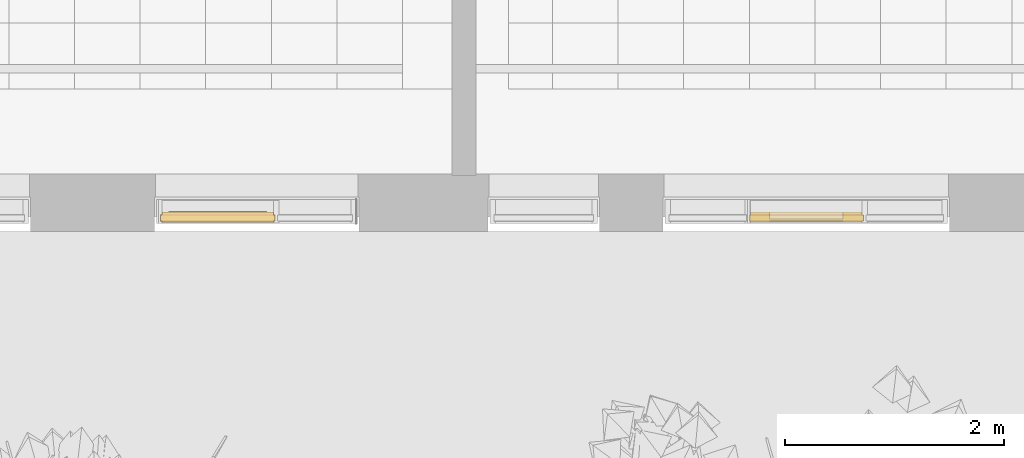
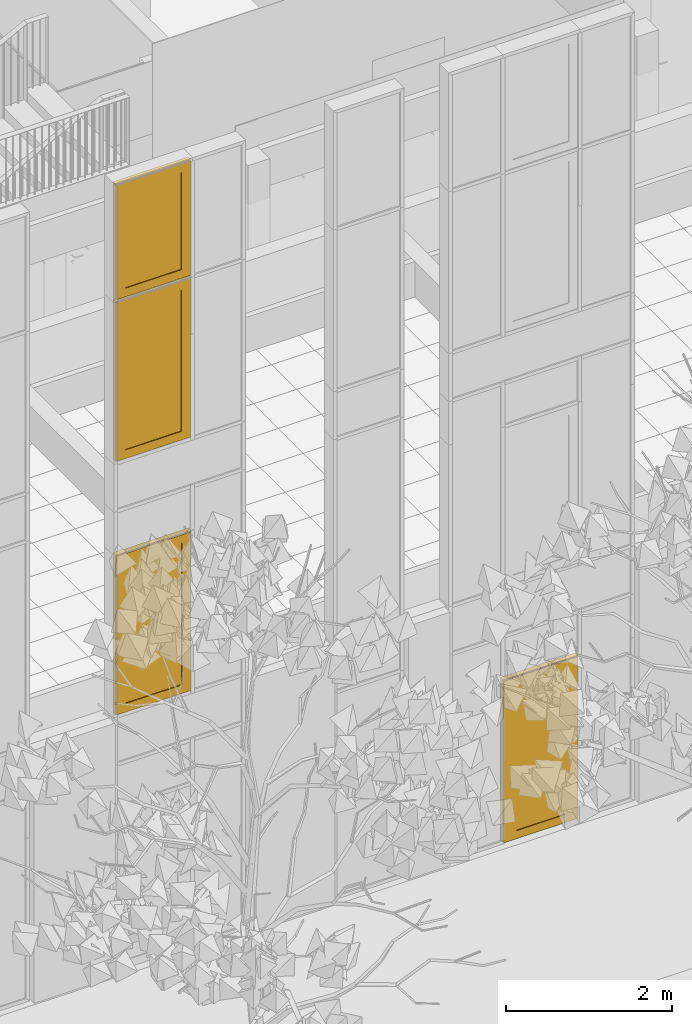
# One storey, part 147 of 246: 3 windows, 1 door, 2 elements without a shape of their own.
"""IFC2X3 building model written with IfcOpenShell, lengths in millimetres."""

from ifc_helpers import new_model, entity, si_unit, converted_unit, derived_unit, money_unit, direction, frame, origin_with_axes, place, context, subcontext, project, spatial, open_shell, faceted_brep, surface_model, source, transform, mapped, material, material_list, type_object, element, aggregate, save


model = new_model("IFC2X3")

# Units and contexts
model_context = context("Model", 3, precision=0.01, world=origin_with_axes(), true_north=direction((0.0, 1.0)))
body_context = subcontext(model_context, "Body", "Model", "MODEL_VIEW")
ifc_project = project(units=[si_unit("LENGTHUNIT", "METRE", prefix="MILLI"), si_unit("AREAUNIT", "SQUARE_METRE"), si_unit("VOLUMEUNIT", "CUBIC_METRE"), converted_unit("PLANEANGLEUNIT", "DEGREE", entity("IfcPlaneAngleMeasure", 0.0174532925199), si_unit("PLANEANGLEUNIT", "RADIAN"), dimensions=[0, 0, 0, 0, 0, 0, 0]), si_unit("SOLIDANGLEUNIT", "STERADIAN"), money_unit("EUR"), converted_unit("TIMEUNIT", "Year", entity("IfcTimeMeasure", 31556926.0), si_unit("TIMEUNIT", "SECOND"), dimensions=[0, 0, 1, 0, 0, 0, 0]), si_unit("MASSUNIT", "GRAM", prefix="KILO"), si_unit("THERMODYNAMICTEMPERATUREUNIT", "DEGREE_CELSIUS"), si_unit("LUMINOUSINTENSITYUNIT", "LUMEN"), si_unit("ENERGYUNIT", "JOULE", prefix="MEGA"), derived_unit("THERMALCONDUCTANCEUNIT", [(si_unit("POWERUNIT", "WATT"), 1), (si_unit("LENGTHUNIT", "METRE"), -1), (si_unit("THERMODYNAMICTEMPERATUREUNIT", "KELVIN"), -1)]), derived_unit("SPECIFICHEATCAPACITYUNIT", [(si_unit("ENERGYUNIT", "JOULE"), 1), (si_unit("MASSUNIT", "GRAM", prefix="KILO"), -1), (si_unit("THERMODYNAMICTEMPERATUREUNIT", "KELVIN"), -1)]), derived_unit("MASSDENSITYUNIT", [(si_unit("MASSUNIT", "GRAM", prefix="KILO"), 1), (si_unit("VOLUMEUNIT", "CUBIC_METRE"), -1)])], contexts=[model_context])

# Site, building, storey
site_placement = place(None, origin_with_axes())
site = spatial("IfcSite", under=ifc_project, at=site_placement, Name="L.Koidula tn 11b", CompositionType="ELEMENT")
building_placement = place(site_placement, origin_with_axes())
building = spatial("IfcBuilding", under=site, at=building_placement, Name="Rakvere Riigigümnaasium", CompositionType="ELEMENT")
storey_placement = place(building_placement, origin_with_axes())
storey = spatial("IfcBuildingStorey", under=building, at=storey_placement, Name="1.korrus 0,00", CompositionType="ELEMENT", Elevation=0.0)

# Curtain wall, windows
curtain_wall_type = type_object("IfcCurtainWallType", Name="Curtain Wall Type", PredefinedType="NOTDEFINED")
curtain_wall_1_placement = place(storey_placement, frame((59064.0000846, 5111.45334637, -8.09717250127e-06), z_axis=(0.0, 0.0, 1.0), x_axis=(1.0, 0.0, 0.0)))
curtain_wall_1 = element("IfcCurtainWall", 1, at=curtain_wall_1_placement, inside=storey, type_object=curtain_wall_type, Name="KLF-05-2A")
ifc_material_1 = material(Name="Alumiiniumprofiil (RAL 7021)")
ifc_material_2 = material(Name="Klaaspakett 3x ribikardinatega")
ifc_material_list = material_list([ifc_material_1, ifc_material_2])
window_style_1 = type_object("IfcWindowStyle", Name="1046 x 2351 x 65", ConstructionType="NOTDEFINED", OperationType="NOTDEFINED", ParameterTakesPrecedence=False, Sizeable=False)
shared_shape_1 = source(origin_with_axes(), body_context, "Body", "SurfaceModel", [
    surface_model("IfcShellBasedSurfaceModel", [(50.0000055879, 24.9999850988, 43.5), (109.000005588, 83.9999850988, 43.5), (1010.9999851, 83.9999850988, 43.5), (1069.9999851, 24.9999850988, 43.5)], [open_shell([[[0, 1, 2, 3]]])]),
    surface_model("IfcShellBasedSurfaceModel", [(1069.9999851, 24.9999850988, 43.5), (1010.9999851, 83.9999850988, 43.5), (1010.9999851, 2291.0000149, 43.5), (1069.9999851, 2350.0000149, 43.5)], [open_shell([[[0, 1, 2, 3]]])]),
    surface_model("IfcShellBasedSurfaceModel", [(50.0000055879, 2350.0000149, 43.5), (1069.9999851, 2350.0000149, 43.5), (1010.9999851, 2291.0000149, 43.5), (109.000005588, 2291.0000149, 43.5)], [open_shell([[[0, 1, 2, 3]]])]),
    surface_model("IfcShellBasedSurfaceModel", [(50.0000055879, 24.9999850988, 43.5), (50.0000055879, 2350.0000149, 43.5), (109.000005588, 2291.0000149, 43.5), (109.000005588, 83.9999850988, 43.5)], [open_shell([[[0, 1, 2, 3]]])]),
    faceted_brep([(50.0000055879, 24.9999850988, -45.5), (1069.9999851, 24.9999850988, -45.5), (1069.9999851, 24.9999850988, 43.5), (50.0000055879, 24.9999850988, 43.5), (109.000005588, 83.9999850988, -45.5), (1010.9999851, 83.9999850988, -45.5), (1010.9999851, 83.9999850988, 43.5), (109.000005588, 83.9999850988, 43.5)], [[[0, 1, 2, 3]], [[0, 4, 5, 1]], [[1, 5, 6, 2]], [[3, 2, 6, 7]], [[4, 0, 3, 7]], [[5, 4, 7, 6]]]),
    faceted_brep([(1069.9999851, 24.9999850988, -45.5), (1069.9999851, 2350.0000149, -45.5), (1069.9999851, 2350.0000149, 43.5), (1069.9999851, 24.9999850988, 43.5), (1010.9999851, 83.9999850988, -45.5), (1010.9999851, 2291.0000149, -45.5), (1010.9999851, 2291.0000149, 43.5), (1010.9999851, 83.9999850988, 43.5)], [[[0, 1, 2, 3]], [[0, 4, 5, 1]], [[1, 5, 6, 2]], [[3, 2, 6, 7]], [[4, 0, 3, 7]], [[5, 4, 7, 6]]]),
    faceted_brep([(50.0000055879, 2350.0000149, -45.5), (109.000005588, 2291.0000149, -45.5), (109.000005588, 2291.0000149, 43.5), (50.0000055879, 2350.0000149, 43.5), (1069.9999851, 2350.0000149, -45.5), (1010.9999851, 2291.0000149, -45.5), (1010.9999851, 2291.0000149, 43.5), (1069.9999851, 2350.0000149, 43.5)], [[[0, 1, 2, 3]], [[0, 4, 5, 1]], [[1, 5, 6, 2]], [[3, 2, 6, 7]], [[4, 0, 3, 7]], [[5, 4, 7, 6]]]),
    faceted_brep([(50.0000055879, 24.9999850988, -45.5), (109.000005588, 83.9999850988, -45.5), (109.000005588, 83.9999850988, 43.5), (50.0000055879, 24.9999850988, 43.5), (50.0000055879, 2350.0000149, -45.5), (109.000005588, 2291.0000149, -45.5), (109.000005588, 2291.0000149, 43.5), (50.0000055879, 2350.0000149, 43.5)], [[[0, 1, 2, 3]], [[0, 4, 5, 1]], [[1, 5, 6, 2]], [[3, 2, 6, 7]], [[4, 0, 3, 7]], [[5, 4, 7, 6]]]),
    faceted_brep([(36.9999836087, 11.9999985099, -32.5), (1083.00000708, 11.9999985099, -32.5), (1083.00000708, 11.9999985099, 32.5), (36.9999836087, 11.9999985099, 32.5), (50.0000055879, 24.9999850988, -32.5), (1069.9999851, 24.9999850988, -32.5), (1069.9999851, 24.9999850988, 32.5), (50.0000055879, 24.9999850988, 32.5)], [[[0, 1, 2, 3]], [[0, 4, 5, 1]], [[1, 5, 6, 2]], [[3, 2, 6, 7]], [[4, 0, 3, 7]], [[5, 4, 7, 6]]]),
    faceted_brep([(1083.00000708, 11.9999985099, -32.5), (1083.00000708, 2363.00000149, -32.5), (1083.00000708, 2363.00000149, 32.5), (1083.00000708, 11.9999985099, 32.5), (1069.9999851, 24.9999850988, -32.5), (1069.9999851, 2350.0000149, -32.5), (1069.9999851, 2350.0000149, 32.5), (1069.9999851, 24.9999850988, 32.5)], [[[0, 1, 2, 3]], [[0, 4, 5, 1]], [[1, 5, 6, 2]], [[3, 2, 6, 7]], [[4, 0, 3, 7]], [[5, 4, 7, 6]]]),
    faceted_brep([(1083.00000708, 2363.00000149, -32.5), (36.9999836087, 2363.00000149, -32.5), (36.9999836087, 2363.00000149, 32.5), (1083.00000708, 2363.00000149, 32.5), (1069.9999851, 2350.0000149, -32.5), (50.0000055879, 2350.0000149, -32.5), (50.0000055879, 2350.0000149, 32.5), (1069.9999851, 2350.0000149, 32.5)], [[[0, 1, 2, 3]], [[0, 4, 5, 1]], [[1, 5, 6, 2]], [[3, 2, 6, 7]], [[4, 0, 3, 7]], [[5, 4, 7, 6]]]),
    faceted_brep([(36.9999836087, 2363.00000149, -32.5), (36.9999836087, 11.9999985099, -32.5), (36.9999836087, 11.9999985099, 32.5), (36.9999836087, 2363.00000149, 32.5), (50.0000055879, 2350.0000149, -32.5), (50.0000055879, 24.9999850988, -32.5), (50.0000055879, 24.9999850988, 32.5), (50.0000055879, 2350.0000149, 32.5)], [[[0, 1, 2, 3]], [[0, 4, 5, 1]], [[1, 5, 6, 2]], [[3, 2, 6, 7]], [[4, 0, 3, 7]], [[5, 4, 7, 6]]]),
    faceted_brep([(172.000005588, 146.999985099, 43.5), (172.000005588, 146.999985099, -56.5), (172.000005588, 2228.0000149, -56.5), (172.000005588, 2228.0000149, 43.5), (109.000005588, 83.9999850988, 43.5), (109.000005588, 83.9999850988, -56.5), (109.000005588, 2291.0000149, -56.5), (109.000005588, 2291.0000149, 43.5)], [[[0, 1, 2, 3]], [[4, 5, 1, 0]], [[1, 5, 6, 2]], [[3, 2, 6, 7]], [[0, 3, 7, 4]], [[7, 6, 5, 4]]]),
    faceted_brep([(1010.9999851, 83.9999850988, 43.5), (1010.9999851, 83.9999850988, -56.5), (1010.9999851, 2291.0000149, -56.5), (1010.9999851, 2291.0000149, 43.5), (947.999985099, 146.999985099, 43.5), (947.999985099, 146.999985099, -56.5), (947.999985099, 2228.0000149, -56.5), (947.999985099, 2228.0000149, 43.5)], [[[0, 1, 2, 3]], [[4, 5, 1, 0]], [[1, 5, 6, 2]], [[3, 2, 6, 7]], [[0, 3, 7, 4]], [[7, 6, 5, 4]]]),
    faceted_brep([(1010.9999851, 83.9999850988, 43.5), (1010.9999851, 83.9999850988, -56.5), (947.999985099, 146.999985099, -56.5), (947.999985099, 146.999985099, 43.5), (109.000005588, 83.9999850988, 43.5), (109.000005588, 83.9999850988, -56.5), (172.000005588, 146.999985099, -56.5), (172.000005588, 146.999985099, 43.5)], [[[0, 1, 2, 3]], [[4, 5, 1, 0]], [[1, 5, 6, 2]], [[3, 2, 6, 7]], [[0, 3, 7, 4]], [[7, 6, 5, 4]]]),
    faceted_brep([(109.000005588, 2291.0000149, 43.5), (109.000005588, 2291.0000149, -56.5), (172.000005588, 2228.0000149, -56.5), (172.000005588, 2228.0000149, 43.5), (1010.9999851, 2291.0000149, 43.5), (1010.9999851, 2291.0000149, -56.5), (947.999985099, 2228.0000149, -56.5), (947.999985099, 2228.0000149, 43.5)], [[[0, 1, 2, 3]], [[4, 5, 1, 0]], [[1, 5, 6, 2]], [[3, 2, 6, 7]], [[0, 3, 7, 4]], [[7, 6, 5, 4]]]),
    faceted_brep([(172.000005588, 146.999985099, 32.5), (172.000005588, 146.999985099, -32.5), (947.999985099, 146.999985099, -32.5), (947.999985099, 146.999985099, 32.5), (172.000005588, 2228.0000149, 32.5), (172.000005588, 2228.0000149, -32.5), (947.999985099, 2228.0000149, -32.5), (947.999985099, 2228.0000149, 32.5)], [[[0, 1, 2, 3]], [[4, 5, 1, 0]], [[1, 5, 6, 2]], [[3, 2, 6, 7]], [[0, 3, 7, 4]], [[7, 6, 5, 4]]]),
])
window_1_placement = place(curtain_wall_1_placement, frame((-582.333458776, 0.0, 4932.5), z_axis=(0.0, 0.0, 1.0), x_axis=(-1.0, 0.0, 0.0)))
window_1 = element("IfcWindow", 2, at=window_1_placement, type_object=window_style_1, material=ifc_material_list, Name="KLF-05-A-1", ObjectType="WINDOW", context=body_context, shape_type="MappedRepresentation", body=[
    mapped(shared_shape_1, transform((371.666628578, 0.0, -1187.5), x_axis=(-1.0, 0.0, 0.0), y_axis=(0.0, 0.0, 1.0), z_axis=(0.0, 1.0, 0.0))),
])
window_style_2 = type_object("IfcWindowStyle", Name="1046 x 2351 x 54", ConstructionType="NOTDEFINED", OperationType="NOTDEFINED", ParameterTakesPrecedence=False, Sizeable=False)
shared_shape_2 = source(origin_with_axes(), body_context, "Body", "SurfaceModel", [
    surface_model("IfcShellBasedSurfaceModel", [(50.0000055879, 24.9999850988, 38.0), (109.000005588, 83.9999850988, 38.0), (1010.9999851, 83.9999850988, 38.0), (1069.9999851, 24.9999850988, 38.0)], [open_shell([[[0, 1, 2, 3]]])]),
    surface_model("IfcShellBasedSurfaceModel", [(1069.9999851, 24.9999850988, 38.0), (1010.9999851, 83.9999850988, 38.0), (1010.9999851, 2291.0000149, 38.0), (1069.9999851, 2350.0000149, 38.0)], [open_shell([[[0, 1, 2, 3]]])]),
    surface_model("IfcShellBasedSurfaceModel", [(50.0000055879, 2350.0000149, 38.0), (1069.9999851, 2350.0000149, 38.0), (1010.9999851, 2291.0000149, 38.0), (109.000005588, 2291.0000149, 38.0)], [open_shell([[[0, 1, 2, 3]]])]),
    surface_model("IfcShellBasedSurfaceModel", [(50.0000055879, 24.9999850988, 38.0), (50.0000055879, 2350.0000149, 38.0), (109.000005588, 2291.0000149, 38.0), (109.000005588, 83.9999850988, 38.0)], [open_shell([[[0, 1, 2, 3]]])]),
    faceted_brep([(50.0000055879, 24.9999850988, -51.0), (1069.9999851, 24.9999850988, -51.0), (1069.9999851, 24.9999850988, 38.0), (50.0000055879, 24.9999850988, 38.0), (109.000005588, 83.9999850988, -51.0), (1010.9999851, 83.9999850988, -51.0), (1010.9999851, 83.9999850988, 38.0), (109.000005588, 83.9999850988, 38.0)], [[[0, 1, 2, 3]], [[0, 4, 5, 1]], [[1, 5, 6, 2]], [[3, 2, 6, 7]], [[4, 0, 3, 7]], [[5, 4, 7, 6]]]),
    faceted_brep([(1069.9999851, 24.9999850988, -51.0), (1069.9999851, 2350.0000149, -51.0), (1069.9999851, 2350.0000149, 38.0), (1069.9999851, 24.9999850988, 38.0), (1010.9999851, 83.9999850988, -51.0), (1010.9999851, 2291.0000149, -51.0), (1010.9999851, 2291.0000149, 38.0), (1010.9999851, 83.9999850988, 38.0)], [[[0, 1, 2, 3]], [[0, 4, 5, 1]], [[1, 5, 6, 2]], [[3, 2, 6, 7]], [[4, 0, 3, 7]], [[5, 4, 7, 6]]]),
    faceted_brep([(50.0000055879, 2350.0000149, -51.0), (109.000005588, 2291.0000149, -51.0), (109.000005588, 2291.0000149, 38.0), (50.0000055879, 2350.0000149, 38.0), (1069.9999851, 2350.0000149, -51.0), (1010.9999851, 2291.0000149, -51.0), (1010.9999851, 2291.0000149, 38.0), (1069.9999851, 2350.0000149, 38.0)], [[[0, 1, 2, 3]], [[0, 4, 5, 1]], [[1, 5, 6, 2]], [[3, 2, 6, 7]], [[4, 0, 3, 7]], [[5, 4, 7, 6]]]),
    faceted_brep([(50.0000055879, 24.9999850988, -51.0), (109.000005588, 83.9999850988, -51.0), (109.000005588, 83.9999850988, 38.0), (50.0000055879, 24.9999850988, 38.0), (50.0000055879, 2350.0000149, -51.0), (109.000005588, 2291.0000149, -51.0), (109.000005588, 2291.0000149, 38.0), (50.0000055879, 2350.0000149, 38.0)], [[[0, 1, 2, 3]], [[0, 4, 5, 1]], [[1, 5, 6, 2]], [[3, 2, 6, 7]], [[4, 0, 3, 7]], [[5, 4, 7, 6]]]),
    faceted_brep([(36.9999836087, 11.9999985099, -27.0), (1083.00000708, 11.9999985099, -27.0), (1083.00000708, 11.9999985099, 27.0), (36.9999836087, 11.9999985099, 27.0), (50.0000055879, 24.9999850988, -27.0), (1069.9999851, 24.9999850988, -27.0), (1069.9999851, 24.9999850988, 27.0), (50.0000055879, 24.9999850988, 27.0)], [[[0, 1, 2, 3]], [[0, 4, 5, 1]], [[1, 5, 6, 2]], [[3, 2, 6, 7]], [[4, 0, 3, 7]], [[5, 4, 7, 6]]]),
    faceted_brep([(1083.00000708, 11.9999985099, -27.0), (1083.00000708, 2363.00000149, -27.0), (1083.00000708, 2363.00000149, 27.0), (1083.00000708, 11.9999985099, 27.0), (1069.9999851, 24.9999850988, -27.0), (1069.9999851, 2350.0000149, -27.0), (1069.9999851, 2350.0000149, 27.0), (1069.9999851, 24.9999850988, 27.0)], [[[0, 1, 2, 3]], [[0, 4, 5, 1]], [[1, 5, 6, 2]], [[3, 2, 6, 7]], [[4, 0, 3, 7]], [[5, 4, 7, 6]]]),
    faceted_brep([(1083.00000708, 2363.00000149, -27.0), (36.9999836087, 2363.00000149, -27.0), (36.9999836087, 2363.00000149, 27.0), (1083.00000708, 2363.00000149, 27.0), (1069.9999851, 2350.0000149, -27.0), (50.0000055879, 2350.0000149, -27.0), (50.0000055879, 2350.0000149, 27.0), (1069.9999851, 2350.0000149, 27.0)], [[[0, 1, 2, 3]], [[0, 4, 5, 1]], [[1, 5, 6, 2]], [[3, 2, 6, 7]], [[4, 0, 3, 7]], [[5, 4, 7, 6]]]),
    faceted_brep([(36.9999836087, 2363.00000149, -27.0), (36.9999836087, 11.9999985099, -27.0), (36.9999836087, 11.9999985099, 27.0), (36.9999836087, 2363.00000149, 27.0), (50.0000055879, 2350.0000149, -27.0), (50.0000055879, 24.9999850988, -27.0), (50.0000055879, 24.9999850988, 27.0), (50.0000055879, 2350.0000149, 27.0)], [[[0, 1, 2, 3]], [[0, 4, 5, 1]], [[1, 5, 6, 2]], [[3, 2, 6, 7]], [[4, 0, 3, 7]], [[5, 4, 7, 6]]]),
    faceted_brep([(172.000005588, 146.999985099, 38.0), (172.000005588, 146.999985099, -62.0), (172.000005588, 2228.0000149, -62.0), (172.000005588, 2228.0000149, 38.0), (109.000005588, 83.9999850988, 38.0), (109.000005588, 83.9999850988, -62.0), (109.000005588, 2291.0000149, -62.0), (109.000005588, 2291.0000149, 38.0)], [[[0, 1, 2, 3]], [[4, 5, 1, 0]], [[1, 5, 6, 2]], [[3, 2, 6, 7]], [[0, 3, 7, 4]], [[7, 6, 5, 4]]]),
    faceted_brep([(1010.9999851, 83.9999850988, 38.0), (1010.9999851, 83.9999850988, -62.0), (1010.9999851, 2291.0000149, -62.0), (1010.9999851, 2291.0000149, 38.0), (947.999985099, 146.999985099, 38.0), (947.999985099, 146.999985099, -62.0), (947.999985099, 2228.0000149, -62.0), (947.999985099, 2228.0000149, 38.0)], [[[0, 1, 2, 3]], [[4, 5, 1, 0]], [[1, 5, 6, 2]], [[3, 2, 6, 7]], [[0, 3, 7, 4]], [[7, 6, 5, 4]]]),
    faceted_brep([(1010.9999851, 83.9999850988, 38.0), (1010.9999851, 83.9999850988, -62.0), (947.999985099, 146.999985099, -62.0), (947.999985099, 146.999985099, 38.0), (109.000005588, 83.9999850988, 38.0), (109.000005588, 83.9999850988, -62.0), (172.000005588, 146.999985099, -62.0), (172.000005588, 146.999985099, 38.0)], [[[0, 1, 2, 3]], [[4, 5, 1, 0]], [[1, 5, 6, 2]], [[3, 2, 6, 7]], [[0, 3, 7, 4]], [[7, 6, 5, 4]]]),
    faceted_brep([(109.000005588, 2291.0000149, 38.0), (109.000005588, 2291.0000149, -62.0), (172.000005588, 2228.0000149, -62.0), (172.000005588, 2228.0000149, 38.0), (1010.9999851, 2291.0000149, 38.0), (1010.9999851, 2291.0000149, -62.0), (947.999985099, 2228.0000149, -62.0), (947.999985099, 2228.0000149, 38.0)], [[[0, 1, 2, 3]], [[4, 5, 1, 0]], [[1, 5, 6, 2]], [[3, 2, 6, 7]], [[0, 3, 7, 4]], [[7, 6, 5, 4]]]),
    faceted_brep([(172.000005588, 146.999985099, 27.0), (172.000005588, 146.999985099, 11.0), (947.999985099, 146.999985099, 11.0), (947.999985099, 146.999985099, 27.0), (172.000005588, 2228.0000149, 27.0), (172.000005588, 2228.0000149, 11.0), (947.999985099, 2228.0000149, 11.0), (947.999985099, 2228.0000149, 27.0)], [[[0, 1, 2, 3]], [[4, 5, 1, 0]], [[1, 5, 6, 2]], [[3, 2, 6, 7]], [[0, 3, 7, 4]], [[7, 6, 5, 4]]]),
])
window_2_placement = place(curtain_wall_1_placement, frame((-403.166773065, 0.0, 8512.5), z_axis=(0.0, 0.0, 1.0), x_axis=(-1.0, 0.0, 0.0)))
window_2 = element("IfcWindow", 3, at=window_2_placement, type_object=window_style_2, material=ifc_material_list, Name="KLF-05-A-1", ObjectType="WINDOW", context=body_context, shape_type="MappedRepresentation", body=[
    mapped(shared_shape_2, transform((550.833314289, 0.0, -1047.5), x_axis=(-1.0, 0.0, 0.0), y_axis=(0.0, 0.0, 1.0), z_axis=(0.0, 1.0, 0.0))),
])
window_style_3 = type_object("IfcWindowStyle", Name="1046 x 1701 x 54", ConstructionType="NOTDEFINED", OperationType="NOTDEFINED", ParameterTakesPrecedence=False, Sizeable=False)
shared_shape_3 = source(origin_with_axes(), body_context, "Body", "SurfaceModel", [
    surface_model("IfcShellBasedSurfaceModel", [(49.9999937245, 24.9999968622, 38.0), (108.999993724, 83.9999968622, 38.0), (1011.00000652, 83.9999968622, 38.0), (1070.00000652, 24.9999968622, 38.0)], [open_shell([[[0, 1, 2, 3]]])]),
    surface_model("IfcShellBasedSurfaceModel", [(1070.00000652, 24.9999968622, 38.0), (1011.00000652, 83.9999968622, 38.0), (1011.00000652, 1641.0000474, 38.0), (1070.00000652, 1700.0000474, 38.0)], [open_shell([[[0, 1, 2, 3]]])]),
    surface_model("IfcShellBasedSurfaceModel", [(49.9999937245, 1700.0000474, 38.0), (1070.00000652, 1700.0000474, 38.0), (1011.00000652, 1641.0000474, 38.0), (108.999993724, 1641.0000474, 38.0)], [open_shell([[[0, 1, 2, 3]]])]),
    surface_model("IfcShellBasedSurfaceModel", [(49.9999937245, 24.9999968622, 38.0), (49.9999937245, 1700.0000474, 38.0), (108.999993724, 1641.0000474, 38.0), (108.999993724, 83.9999968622, 38.0)], [open_shell([[[0, 1, 2, 3]]])]),
    faceted_brep([(49.9999937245, 24.9999968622, -51.0), (1070.00000652, 24.9999968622, -51.0), (1070.00000652, 24.9999968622, 38.0), (49.9999937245, 24.9999968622, 38.0), (108.999993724, 83.9999968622, -51.0), (1011.00000652, 83.9999968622, -51.0), (1011.00000652, 83.9999968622, 38.0), (108.999993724, 83.9999968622, 38.0)], [[[0, 1, 2, 3]], [[0, 4, 5, 1]], [[1, 5, 6, 2]], [[3, 2, 6, 7]], [[4, 0, 3, 7]], [[5, 4, 7, 6]]]),
    faceted_brep([(1070.00000652, 24.9999968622, -51.0), (1070.00000652, 1700.0000474, -51.0), (1070.00000652, 1700.0000474, 38.0), (1070.00000652, 24.9999968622, 38.0), (1011.00000652, 83.9999968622, -51.0), (1011.00000652, 1641.0000474, -51.0), (1011.00000652, 1641.0000474, 38.0), (1011.00000652, 83.9999968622, 38.0)], [[[0, 1, 2, 3]], [[0, 4, 5, 1]], [[1, 5, 6, 2]], [[3, 2, 6, 7]], [[4, 0, 3, 7]], [[5, 4, 7, 6]]]),
    faceted_brep([(49.9999937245, 1700.0000474, -51.0), (108.999993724, 1641.0000474, -51.0), (108.999993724, 1641.0000474, 38.0), (49.9999937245, 1700.0000474, 38.0), (1070.00000652, 1700.0000474, -51.0), (1011.00000652, 1641.0000474, -51.0), (1011.00000652, 1641.0000474, 38.0), (1070.00000652, 1700.0000474, 38.0)], [[[0, 1, 2, 3]], [[0, 4, 5, 1]], [[1, 5, 6, 2]], [[3, 2, 6, 7]], [[4, 0, 3, 7]], [[5, 4, 7, 6]]]),
    faceted_brep([(49.9999937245, 24.9999968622, -51.0), (108.999993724, 83.9999968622, -51.0), (108.999993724, 83.9999968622, 38.0), (49.9999937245, 24.9999968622, 38.0), (49.9999937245, 1700.0000474, -51.0), (108.999993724, 1641.0000474, -51.0), (108.999993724, 1641.0000474, 38.0), (49.9999937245, 1700.0000474, 38.0)], [[[0, 1, 2, 3]], [[0, 4, 5, 1]], [[1, 5, 6, 2]], [[3, 2, 6, 7]], [[4, 0, 3, 7]], [[5, 4, 7, 6]]]),
    faceted_brep([(37.00000683, 12.0000099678, -27.0), (1082.99999341, 12.0000099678, -27.0), (1082.99999341, 12.0000099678, 27.0), (37.00000683, 12.0000099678, 27.0), (49.9999937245, 24.9999968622, -27.0), (1070.00000652, 24.9999968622, -27.0), (1070.00000652, 24.9999968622, 27.0), (49.9999937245, 24.9999968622, 27.0)], [[[0, 1, 2, 3]], [[0, 4, 5, 1]], [[1, 5, 6, 2]], [[3, 2, 6, 7]], [[4, 0, 3, 7]], [[5, 4, 7, 6]]]),
    faceted_brep([(1082.99999341, 12.0000099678, -27.0), (1082.99999341, 1713.0000343, -27.0), (1082.99999341, 1713.0000343, 27.0), (1082.99999341, 12.0000099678, 27.0), (1070.00000652, 24.9999968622, -27.0), (1070.00000652, 1700.0000474, -27.0), (1070.00000652, 1700.0000474, 27.0), (1070.00000652, 24.9999968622, 27.0)], [[[0, 1, 2, 3]], [[0, 4, 5, 1]], [[1, 5, 6, 2]], [[3, 2, 6, 7]], [[4, 0, 3, 7]], [[5, 4, 7, 6]]]),
    faceted_brep([(1082.99999341, 1713.0000343, -27.0), (37.00000683, 1713.0000343, -27.0), (37.00000683, 1713.0000343, 27.0), (1082.99999341, 1713.0000343, 27.0), (1070.00000652, 1700.0000474, -27.0), (49.9999937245, 1700.0000474, -27.0), (49.9999937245, 1700.0000474, 27.0), (1070.00000652, 1700.0000474, 27.0)], [[[0, 1, 2, 3]], [[0, 4, 5, 1]], [[1, 5, 6, 2]], [[3, 2, 6, 7]], [[4, 0, 3, 7]], [[5, 4, 7, 6]]]),
    faceted_brep([(37.00000683, 1713.0000343, -27.0), (37.00000683, 12.0000099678, -27.0), (37.00000683, 12.0000099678, 27.0), (37.00000683, 1713.0000343, 27.0), (49.9999937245, 1700.0000474, -27.0), (49.9999937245, 24.9999968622, -27.0), (49.9999937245, 24.9999968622, 27.0), (49.9999937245, 1700.0000474, 27.0)], [[[0, 1, 2, 3]], [[0, 4, 5, 1]], [[1, 5, 6, 2]], [[3, 2, 6, 7]], [[4, 0, 3, 7]], [[5, 4, 7, 6]]]),
    faceted_brep([(171.999993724, 146.999996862, 38.0), (171.999993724, 146.999996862, -62.0), (171.999993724, 1578.0000474, -62.0), (171.999993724, 1578.0000474, 38.0), (108.999993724, 83.9999968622, 38.0), (108.999993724, 83.9999968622, -62.0), (108.999993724, 1641.0000474, -62.0), (108.999993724, 1641.0000474, 38.0)], [[[0, 1, 2, 3]], [[4, 5, 1, 0]], [[1, 5, 6, 2]], [[3, 2, 6, 7]], [[0, 3, 7, 4]], [[7, 6, 5, 4]]]),
    faceted_brep([(1011.00000652, 83.9999968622, 38.0), (1011.00000652, 83.9999968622, -62.0), (1011.00000652, 1641.0000474, -62.0), (1011.00000652, 1641.0000474, 38.0), (948.00000652, 146.999996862, 38.0), (948.00000652, 146.999996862, -62.0), (948.00000652, 1578.0000474, -62.0), (948.00000652, 1578.0000474, 38.0)], [[[0, 1, 2, 3]], [[4, 5, 1, 0]], [[1, 5, 6, 2]], [[3, 2, 6, 7]], [[0, 3, 7, 4]], [[7, 6, 5, 4]]]),
    faceted_brep([(1011.00000652, 83.9999968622, 38.0), (1011.00000652, 83.9999968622, -62.0), (948.00000652, 146.999996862, -62.0), (948.00000652, 146.999996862, 38.0), (108.999993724, 83.9999968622, 38.0), (108.999993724, 83.9999968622, -62.0), (171.999993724, 146.999996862, -62.0), (171.999993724, 146.999996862, 38.0)], [[[0, 1, 2, 3]], [[4, 5, 1, 0]], [[1, 5, 6, 2]], [[3, 2, 6, 7]], [[0, 3, 7, 4]], [[7, 6, 5, 4]]]),
    faceted_brep([(108.999993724, 1641.0000474, 38.0), (108.999993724, 1641.0000474, -62.0), (171.999993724, 1578.0000474, -62.0), (171.999993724, 1578.0000474, 38.0), (1011.00000652, 1641.0000474, 38.0), (1011.00000652, 1641.0000474, -62.0), (948.00000652, 1578.0000474, -62.0), (948.00000652, 1578.0000474, 38.0)], [[[0, 1, 2, 3]], [[4, 5, 1, 0]], [[1, 5, 6, 2]], [[3, 2, 6, 7]], [[0, 3, 7, 4]], [[7, 6, 5, 4]]]),
    faceted_brep([(171.999993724, 146.999996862, 27.0), (171.999993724, 146.999996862, 11.0), (948.00000652, 146.999996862, 11.0), (948.00000652, 146.999996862, 27.0), (171.999993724, 1578.0000474, 27.0), (171.999993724, 1578.0000474, 11.0), (948.00000652, 1578.0000474, 11.0), (948.00000652, 1578.0000474, 27.0)], [[[0, 1, 2, 3]], [[4, 5, 1, 0]], [[1, 5, 6, 2]], [[3, 2, 6, 7]], [[0, 3, 7, 4]], [[7, 6, 5, 4]]]),
])
window_3_placement = place(curtain_wall_1_placement, frame((-406.500087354, 0.0, 10715.0000206), z_axis=(0.0, 0.0, 1.0), x_axis=(-1.0, 0.0, 0.0)))
window_3 = element("IfcWindow", 4, at=window_3_placement, type_object=window_style_3, material=ifc_material_list, Name="KLF-05-A-3", ObjectType="WINDOW", context=body_context, shape_type="MappedRepresentation", body=[
    mapped(shared_shape_3, transform((547.5, 0.0, -875.000020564), x_axis=(-1.0, 0.0, 0.0), y_axis=(0.0, 0.0, 1.0), z_axis=(0.0, 1.0, 0.0))),
])
aggregate(curtain_wall_1, [window_1, window_2, window_3])

# Curtain wall, door
curtain_wall_2_placement = place(storey_placement, frame((63946.9084811, 5111.45334637, -8.0971711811e-06), z_axis=(0.0, 0.0, 1.0), x_axis=(1.0, 0.0, 0.0)))
curtain_wall_2 = element("IfcCurtainWall", 5, at=curtain_wall_2_placement, inside=storey, type_object=curtain_wall_type, Name="KLF-05-3B")
door_style = type_object("IfcDoorStyle", Name="8 x 2351 x 54", ConstructionType="NOTDEFINED", OperationType="NOTDEFINED", ParameterTakesPrecedence=False, Sizeable=False)
shared_shape_4 = source(origin_with_axes(), body_context, "Body", "SurfaceModel", [
    surface_model("IfcShellBasedSurfaceModel", [(1045.0, 0.0, -53.0), (992.0, 0.0, -53.0), (992.0, 2322.0, -53.0), (1045.0, 2375.0, -53.0)], [open_shell([[[0, 1, 2, 3]]])]),
    surface_model("IfcShellBasedSurfaceModel", [(25.0, 2375.0, -53.0), (1045.0, 2375.0, -53.0), (992.0, 2322.0, -53.0), (78.0, 2322.0, -53.0)], [open_shell([[[0, 1, 2, 3]]])]),
    surface_model("IfcShellBasedSurfaceModel", [(25.0, 0.0, -53.0), (25.0, 2375.0, -53.0), (78.0, 2322.0, -53.0), (78.0, 0.0, -53.0)], [open_shell([[[0, 1, 2, 3]]])]),
    faceted_brep([(1045.0, 0.0, -53.0), (1045.0, 2375.0, -53.0), (1045.0, 2375.0, 37.0), (1045.0, 0.0, 37.0), (992.0, 0.0, -53.0), (992.0, 2322.0, -53.0), (992.0, 2322.0, 37.0), (992.0, 0.0, 37.0)], [[[0, 1, 2, 3]], [[0, 4, 5, 1]], [[1, 5, 6, 2]], [[3, 2, 6, 7]], [[4, 0, 3, 7]], [[5, 4, 7, 6]]]),
    faceted_brep([(25.0, 2375.0, -53.0), (78.0, 2322.0, -53.0), (78.0, 2322.0, 37.0), (25.0, 2375.0, 37.0), (1045.0, 2375.0, -53.0), (992.0, 2322.0, -53.0), (992.0, 2322.0, 37.0), (1045.0, 2375.0, 37.0)], [[[0, 1, 2, 3]], [[0, 4, 5, 1]], [[1, 5, 6, 2]], [[3, 2, 6, 7]], [[4, 0, 3, 7]], [[5, 4, 7, 6]]]),
    faceted_brep([(25.0, 0.0, -53.0), (78.0, 0.0, -53.0), (78.0, 0.0, 37.0), (25.0, 0.0, 37.0), (25.0, 2375.0, -53.0), (78.0, 2322.0, -53.0), (78.0, 2322.0, 37.0), (25.0, 2375.0, 37.0)], [[[0, 1, 2, 3]], [[0, 4, 5, 1]], [[1, 5, 6, 2]], [[3, 2, 6, 7]], [[4, 0, 3, 7]], [[5, 4, 7, 6]]]),
    faceted_brep([(1058.0, 0.0, -27.0), (1058.0, 2388.0, -27.0), (1058.0, 2388.0, 27.0), (1058.0, 0.0, 27.0), (1045.0, 0.0, -27.0), (1045.0, 2375.0, -27.0), (1045.0, 2375.0, 27.0), (1045.0, 0.0, 27.0)], [[[0, 1, 2, 3]], [[0, 4, 5, 1]], [[1, 5, 6, 2]], [[3, 2, 6, 7]], [[4, 0, 3, 7]], [[5, 4, 7, 6]]]),
    faceted_brep([(1058.0, 2388.0, -27.0), (12.0, 2388.0, -27.0), (12.0, 2388.0, 27.0), (1058.0, 2388.0, 27.0), (1045.0, 2375.0, -27.0), (25.0, 2375.0, -27.0), (25.0, 2375.0, 27.0), (1045.0, 2375.0, 27.0)], [[[0, 1, 2, 3]], [[0, 4, 5, 1]], [[1, 5, 6, 2]], [[3, 2, 6, 7]], [[4, 0, 3, 7]], [[5, 4, 7, 6]]]),
    faceted_brep([(12.0, 2388.0, -27.0), (12.0, 0.0, -27.0), (12.0, 0.0, 27.0), (12.0, 2388.0, 27.0), (25.0, 2375.0, -27.0), (25.0, 0.0, -27.0), (25.0, 0.0, 27.0), (25.0, 2375.0, 27.0)], [[[0, 1, 2, 3]], [[0, 4, 5, 1]], [[1, 5, 6, 2]], [[3, 2, 6, 7]], [[4, 0, 3, 7]], [[5, 4, 7, 6]]]),
    faceted_brep([(197.0, 119.0, -53.0), (197.0, 2203.0, -53.0), (197.0, 2203.0, 37.0), (197.0, 119.0, 37.0), (78.0, 0.0, -53.0), (78.0, 2322.0, -53.0), (78.0, 2322.0, 37.0), (78.0, 0.0, 37.0)], [[[0, 1, 2, 3]], [[0, 4, 5, 1]], [[1, 5, 6, 2]], [[3, 2, 6, 7]], [[4, 0, 3, 7]], [[5, 4, 7, 6]]]),
    faceted_brep([(992.0, 0.0, -53.0), (992.0, 2322.0, -53.0), (992.0, 2322.0, 37.0), (992.0, 0.0, 37.0), (873.0, 119.0, -53.0), (873.0, 2203.0, -53.0), (873.0, 2203.0, 37.0), (873.0, 119.0, 37.0)], [[[0, 1, 2, 3]], [[0, 4, 5, 1]], [[1, 5, 6, 2]], [[3, 2, 6, 7]], [[4, 0, 3, 7]], [[5, 4, 7, 6]]]),
    faceted_brep([(992.0, 0.0, -53.0), (873.0, 119.0, -53.0), (873.0, 119.0, 37.0), (992.0, 0.0, 37.0), (78.0, 0.0, -53.0), (197.0, 119.0, -53.0), (197.0, 119.0, 37.0), (78.0, 0.0, 37.0)], [[[0, 1, 2, 3]], [[0, 4, 5, 1]], [[1, 5, 6, 2]], [[3, 2, 6, 7]], [[4, 0, 3, 7]], [[5, 4, 7, 6]]]),
    faceted_brep([(78.0, 2322.0, -53.0), (197.0, 2203.0, -53.0), (197.0, 2203.0, 37.0), (78.0, 2322.0, 37.0), (992.0, 2322.0, -53.0), (873.0, 2203.0, -53.0), (873.0, 2203.0, 37.0), (992.0, 2322.0, 37.0)], [[[0, 1, 2, 3]], [[0, 4, 5, 1]], [[1, 5, 6, 2]], [[3, 2, 6, 7]], [[4, 0, 3, 7]], [[5, 4, 7, 6]]]),
    faceted_brep([(197.0, 119.0, 11.0), (873.0, 119.0, 11.0), (873.0, 119.0, 27.0), (197.0, 119.0, 27.0), (197.0, 2203.0, 11.0), (873.0, 2203.0, 11.0), (873.0, 2203.0, 27.0), (197.0, 2203.0, 27.0)], [[[0, 1, 2, 3]], [[0, 4, 5, 1]], [[1, 5, 6, 2]], [[3, 2, 6, 7]], [[4, 0, 3, 7]], [[5, 4, 7, 6]]]),
])
door_placement = place(curtain_wall_2_placement, frame((-68.7275395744, 0.0, 1200.0), z_axis=(0.0, 0.0, 1.0), x_axis=(-1.0, 0.0, 0.0)))
door = element("IfcDoor", 6, at=door_placement, type_object=door_style, material=ifc_material_list, Name="KLF-05-VU-2", ObjectType="DOOR", context=body_context, shape_type="MappedRepresentation", body=[
    mapped(shared_shape_4, transform((363.181089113, 0.0, -1200.0), x_axis=(-1.0, 0.0, 0.0), y_axis=(0.0, 0.0, 1.0), z_axis=(0.0, 1.0, 0.0))),
])
aggregate(curtain_wall_2, [door])

save(model, "model.ifc")
